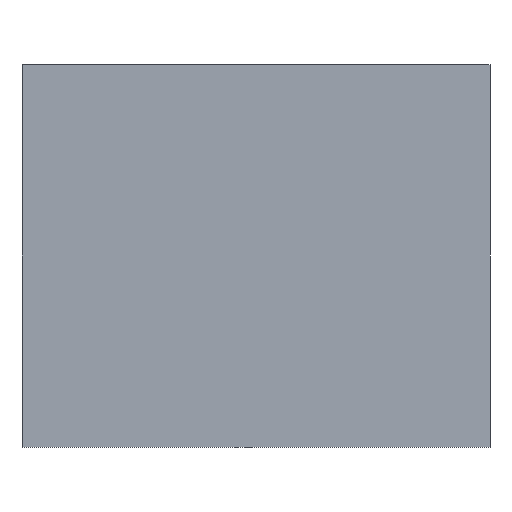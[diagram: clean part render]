
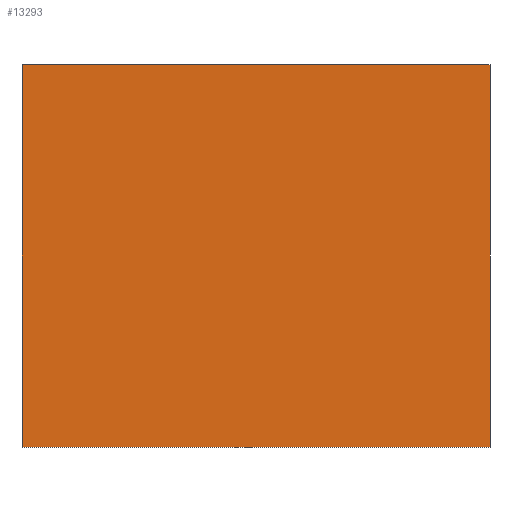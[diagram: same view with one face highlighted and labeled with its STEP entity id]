
A CAD part, front view. The second image highlights one B-rep face of the part: STEP entity #13293.
In plain terms, the highlighted planar face has unit normal (0, -1, 0).
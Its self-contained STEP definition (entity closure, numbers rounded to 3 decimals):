
#50 = EDGE_CURVE ( 'NONE', #2965, #4027, #13660, .T. ) ;
#299 = CARTESIAN_POINT ( 'NONE',  ( 225.119, -144.378, 194.696 ) ) ;
#535 = DIRECTION ( 'NONE',  ( 1., 0., 0. ) ) ;
#641 = ORIENTED_EDGE ( 'NONE', *, *, #2767, .F. ) ;
#744 = CARTESIAN_POINT ( 'NONE',  ( -225.119, -144.378, 194.696 ) ) ;
#1271 = CARTESIAN_POINT ( 'NONE',  ( -225.119, -144.378, -173.442 ) ) ;
#1291 = VECTOR ( 'NONE', #11880, 1000. ) ;
#1887 = CARTESIAN_POINT ( 'NONE',  ( 225.119, -144.378, -173.442 ) ) ;
#2083 = LINE ( 'NONE', #12850, #1291 ) ;
#2767 = EDGE_CURVE ( 'NONE', #13834, #2965, #2083, .T. ) ;
#2965 = VERTEX_POINT ( 'NONE', #5296 ) ;
#3583 = VERTEX_POINT ( 'NONE', #299 ) ;
#3620 = CARTESIAN_POINT ( 'NONE',  ( 0., -144.378, 0. ) ) ;
#3633 = EDGE_CURVE ( 'NONE', #4027, #3583, #15246, .T. ) ;
#4027 = VERTEX_POINT ( 'NONE', #744 ) ;
#4897 = DIRECTION ( 'NONE',  ( 0., 0., 1. ) ) ;
#5201 = ORIENTED_EDGE ( 'NONE', *, *, #50, .F. ) ;
#5296 = CARTESIAN_POINT ( 'NONE',  ( -225.119, -144.378, -173.442 ) ) ;
#5510 = DIRECTION ( 'NONE',  ( 0., 0., -1. ) ) ;
#5816 = EDGE_LOOP ( 'NONE', ( #5201, #641, #9474, #10495 ) ) ;
#5951 = VECTOR ( 'NONE', #5510, 1000. ) ;
#6716 = LINE ( 'NONE', #1887, #5951 ) ;
#7042 = FACE_OUTER_BOUND ( 'NONE', #5816, .T. ) ;
#7418 = EDGE_CURVE ( 'NONE', #3583, #13834, #6716, .T. ) ;
#8543 = PLANE ( 'NONE',  #13413 ) ;
#9137 = CARTESIAN_POINT ( 'NONE',  ( -225.119, -144.378, 194.696 ) ) ;
#9474 = ORIENTED_EDGE ( 'NONE', *, *, #7418, .F. ) ;
#10053 = VECTOR ( 'NONE', #4897, 1000. ) ;
#10495 = ORIENTED_EDGE ( 'NONE', *, *, #3633, .F. ) ;
#11288 = VECTOR ( 'NONE', #535, 1000. ) ;
#11880 = DIRECTION ( 'NONE',  ( -1., 0., 0. ) ) ;
#12850 = CARTESIAN_POINT ( 'NONE',  ( -225.119, -144.378, -173.442 ) ) ;
#13293 = ADVANCED_FACE ( 'NONE', ( #7042 ), #8543, .T. ) ;
#13413 = AXIS2_PLACEMENT_3D ( 'NONE', #3620, #15546, #14726 ) ;
#13660 = LINE ( 'NONE', #1271, #10053 ) ;
#13834 = VERTEX_POINT ( 'NONE', #14899 ) ;
#14726 = DIRECTION ( 'NONE',  ( 0., 0., -1. ) ) ;
#14899 = CARTESIAN_POINT ( 'NONE',  ( 225.119, -144.378, -173.442 ) ) ;
#15246 = LINE ( 'NONE', #9137, #11288 ) ;
#15546 = DIRECTION ( 'NONE',  ( 0., -1., 0. ) ) ;
